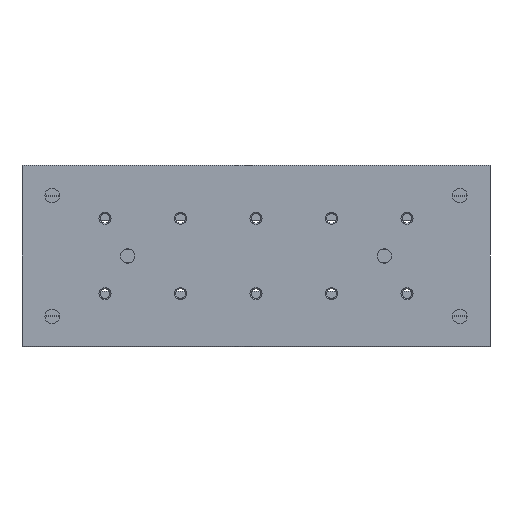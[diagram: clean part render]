
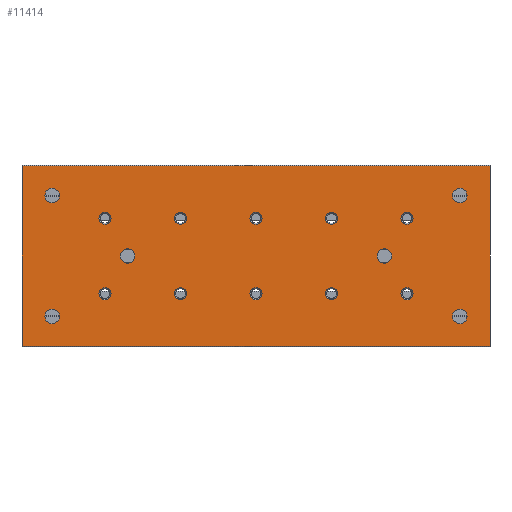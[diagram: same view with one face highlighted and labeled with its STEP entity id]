
A CAD part, front view. The second image highlights one B-rep face of the part: STEP entity #11414.
In plain terms, the highlighted planar face has unit normal (0, -1, 0).
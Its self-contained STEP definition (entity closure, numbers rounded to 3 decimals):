
#394=CIRCLE('',#12100,2.);
#395=CIRCLE('',#12101,2.);
#396=CIRCLE('',#12102,2.);
#397=CIRCLE('',#12103,2.);
#398=CIRCLE('',#12104,2.);
#399=CIRCLE('',#12105,2.);
#400=CIRCLE('',#12106,2.);
#401=CIRCLE('',#12107,2.);
#402=CIRCLE('',#12108,2.);
#403=CIRCLE('',#12109,2.);
#404=CIRCLE('',#12110,2.4);
#405=CIRCLE('',#12111,2.4);
#406=CIRCLE('',#12112,2.4);
#407=CIRCLE('',#12113,2.4);
#408=CIRCLE('',#12114,2.4);
#409=CIRCLE('',#12115,2.4);
#1176=ORIENTED_EDGE('',*,*,#4625,.F.);
#1177=ORIENTED_EDGE('',*,*,#4626,.F.);
#1178=ORIENTED_EDGE('',*,*,#4627,.F.);
#1179=ORIENTED_EDGE('',*,*,#4628,.F.);
#1180=ORIENTED_EDGE('',*,*,#4629,.F.);
#1181=ORIENTED_EDGE('',*,*,#4630,.F.);
#1182=ORIENTED_EDGE('',*,*,#4631,.F.);
#1183=ORIENTED_EDGE('',*,*,#4632,.F.);
#1184=ORIENTED_EDGE('',*,*,#4633,.F.);
#1185=ORIENTED_EDGE('',*,*,#4634,.F.);
#1186=ORIENTED_EDGE('',*,*,#4635,.F.);
#1187=ORIENTED_EDGE('',*,*,#4636,.F.);
#1188=ORIENTED_EDGE('',*,*,#4637,.T.);
#1189=ORIENTED_EDGE('',*,*,#4638,.F.);
#1190=ORIENTED_EDGE('',*,*,#4639,.F.);
#1191=ORIENTED_EDGE('',*,*,#4640,.F.);
#1192=ORIENTED_EDGE('',*,*,#4599,.T.);
#1193=ORIENTED_EDGE('',*,*,#4641,.F.);
#1194=ORIENTED_EDGE('',*,*,#4642,.F.);
#1195=ORIENTED_EDGE('',*,*,#4623,.T.);
#4599=EDGE_CURVE('',#6326,#6325,#7495,.T.);
#4623=EDGE_CURVE('',#6348,#6326,#7519,.T.);
#4625=EDGE_CURVE('',#6349,#6349,#394,.T.);
#4626=EDGE_CURVE('',#6350,#6350,#395,.T.);
#4627=EDGE_CURVE('',#6351,#6351,#396,.T.);
#4628=EDGE_CURVE('',#6352,#6352,#397,.T.);
#4629=EDGE_CURVE('',#6353,#6353,#398,.T.);
#4630=EDGE_CURVE('',#6354,#6354,#399,.T.);
#4631=EDGE_CURVE('',#6355,#6355,#400,.T.);
#4632=EDGE_CURVE('',#6356,#6356,#401,.T.);
#4633=EDGE_CURVE('',#6357,#6357,#402,.T.);
#4634=EDGE_CURVE('',#6358,#6358,#403,.T.);
#4635=EDGE_CURVE('',#6359,#6359,#404,.T.);
#4636=EDGE_CURVE('',#6360,#6360,#405,.T.);
#4637=EDGE_CURVE('',#6361,#6361,#406,.T.);
#4638=EDGE_CURVE('',#6362,#6362,#407,.T.);
#4639=EDGE_CURVE('',#6363,#6363,#408,.T.);
#4640=EDGE_CURVE('',#6364,#6364,#409,.T.);
#4641=EDGE_CURVE('',#6365,#6325,#7521,.T.);
#4642=EDGE_CURVE('',#6348,#6365,#7522,.T.);
#6325=VERTEX_POINT('',#17314);
#6326=VERTEX_POINT('',#17316);
#6348=VERTEX_POINT('',#17365);
#6349=VERTEX_POINT('',#17369);
#6350=VERTEX_POINT('',#17371);
#6351=VERTEX_POINT('',#17373);
#6352=VERTEX_POINT('',#17375);
#6353=VERTEX_POINT('',#17377);
#6354=VERTEX_POINT('',#17379);
#6355=VERTEX_POINT('',#17381);
#6356=VERTEX_POINT('',#17383);
#6357=VERTEX_POINT('',#17385);
#6358=VERTEX_POINT('',#17387);
#6359=VERTEX_POINT('',#17389);
#6360=VERTEX_POINT('',#17391);
#6361=VERTEX_POINT('',#17393);
#6362=VERTEX_POINT('',#17395);
#6363=VERTEX_POINT('',#17397);
#6364=VERTEX_POINT('',#17399);
#6365=VERTEX_POINT('',#17401);
#7495=LINE('',#17315,#8523);
#7519=LINE('',#17364,#8547);
#7521=LINE('',#17400,#8549);
#7522=LINE('',#17402,#8550);
#8523=VECTOR('',#13520,1000.);
#8547=VECTOR('',#13550,1000.);
#8549=VECTOR('',#13586,1000.);
#8550=VECTOR('',#13587,1000.);
#9507=EDGE_LOOP('',(#1176));
#9508=EDGE_LOOP('',(#1177));
#9509=EDGE_LOOP('',(#1178));
#9510=EDGE_LOOP('',(#1179));
#9511=EDGE_LOOP('',(#1180));
#9512=EDGE_LOOP('',(#1181));
#9513=EDGE_LOOP('',(#1182));
#9514=EDGE_LOOP('',(#1183));
#9515=EDGE_LOOP('',(#1184));
#9516=EDGE_LOOP('',(#1185));
#9517=EDGE_LOOP('',(#1186));
#9518=EDGE_LOOP('',(#1187));
#9519=EDGE_LOOP('',(#1188));
#9520=EDGE_LOOP('',(#1189));
#9521=EDGE_LOOP('',(#1190));
#9522=EDGE_LOOP('',(#1191));
#9523=EDGE_LOOP('',(#1192,#1193,#1194,#1195));
#10313=FACE_BOUND('',#9507,.T.);
#10314=FACE_BOUND('',#9508,.T.);
#10315=FACE_BOUND('',#9509,.T.);
#10316=FACE_BOUND('',#9510,.T.);
#10317=FACE_BOUND('',#9511,.T.);
#10318=FACE_BOUND('',#9512,.T.);
#10319=FACE_BOUND('',#9513,.T.);
#10320=FACE_BOUND('',#9514,.T.);
#10321=FACE_BOUND('',#9515,.T.);
#10322=FACE_BOUND('',#9516,.T.);
#10323=FACE_BOUND('',#9517,.T.);
#10324=FACE_BOUND('',#9518,.T.);
#10325=FACE_BOUND('',#9519,.T.);
#10326=FACE_BOUND('',#9520,.T.);
#10327=FACE_BOUND('',#9521,.T.);
#10328=FACE_BOUND('',#9522,.T.);
#10329=FACE_BOUND('',#9523,.T.);
#11119=PLANE('',#12099);
#11414=ADVANCED_FACE('',(#10313,#10314,#10315,#10316,#10317,#10318,#10319,
#10320,#10321,#10322,#10323,#10324,#10325,#10326,#10327,#10328,#10329),
#11119,.F.);
#12099=AXIS2_PLACEMENT_3D('',#17367,#13552,#13553);
#12100=AXIS2_PLACEMENT_3D('',#17368,#13554,#13555);
#12101=AXIS2_PLACEMENT_3D('',#17370,#13556,#13557);
#12102=AXIS2_PLACEMENT_3D('',#17372,#13558,#13559);
#12103=AXIS2_PLACEMENT_3D('',#17374,#13560,#13561);
#12104=AXIS2_PLACEMENT_3D('',#17376,#13562,#13563);
#12105=AXIS2_PLACEMENT_3D('',#17378,#13564,#13565);
#12106=AXIS2_PLACEMENT_3D('',#17380,#13566,#13567);
#12107=AXIS2_PLACEMENT_3D('',#17382,#13568,#13569);
#12108=AXIS2_PLACEMENT_3D('',#17384,#13570,#13571);
#12109=AXIS2_PLACEMENT_3D('',#17386,#13572,#13573);
#12110=AXIS2_PLACEMENT_3D('',#17388,#13574,#13575);
#12111=AXIS2_PLACEMENT_3D('',#17390,#13576,#13577);
#12112=AXIS2_PLACEMENT_3D('',#17392,#13578,#13579);
#12113=AXIS2_PLACEMENT_3D('',#17394,#13580,#13581);
#12114=AXIS2_PLACEMENT_3D('',#17396,#13582,#13583);
#12115=AXIS2_PLACEMENT_3D('',#17398,#13584,#13585);
#13520=DIRECTION('',(0.,0.,-1.));
#13550=DIRECTION('',(-1.,0.,0.));
#13552=DIRECTION('',(0.,1.,0.));
#13553=DIRECTION('',(0.,0.,1.));
#13554=DIRECTION('',(0.,-1.,0.));
#13555=DIRECTION('',(0.,0.,-1.));
#13556=DIRECTION('',(0.,-1.,0.));
#13557=DIRECTION('',(0.,0.,-1.));
#13558=DIRECTION('',(0.,-1.,0.));
#13559=DIRECTION('',(0.,0.,-1.));
#13560=DIRECTION('',(0.,-1.,0.));
#13561=DIRECTION('',(0.,0.,-1.));
#13562=DIRECTION('',(0.,-1.,0.));
#13563=DIRECTION('',(0.,0.,-1.));
#13564=DIRECTION('',(0.,-1.,0.));
#13565=DIRECTION('',(0.,0.,-1.));
#13566=DIRECTION('',(0.,-1.,0.));
#13567=DIRECTION('',(0.,0.,-1.));
#13568=DIRECTION('',(0.,-1.,0.));
#13569=DIRECTION('',(0.,0.,-1.));
#13570=DIRECTION('',(0.,-1.,0.));
#13571=DIRECTION('',(0.,0.,-1.));
#13572=DIRECTION('',(0.,-1.,0.));
#13573=DIRECTION('',(0.,0.,-1.));
#13574=DIRECTION('',(0.,-1.,0.));
#13575=DIRECTION('',(0.,0.,-1.));
#13576=DIRECTION('',(0.,-1.,0.));
#13577=DIRECTION('',(0.,0.,-1.));
#13578=DIRECTION('',(0.,1.,0.));
#13579=DIRECTION('',(0.,0.,1.));
#13580=DIRECTION('',(0.,-1.,0.));
#13581=DIRECTION('',(0.,0.,-1.));
#13582=DIRECTION('',(0.,-1.,0.));
#13583=DIRECTION('',(0.,0.,-1.));
#13584=DIRECTION('',(0.,-1.,0.));
#13585=DIRECTION('',(0.,0.,-1.));
#13586=DIRECTION('',(-1.,0.,0.));
#13587=DIRECTION('',(0.,0.,-1.));
#17314=CARTESIAN_POINT('',(0.,0.,-29.85));
#17315=CARTESIAN_POINT('',(0.,0.,29.85));
#17316=CARTESIAN_POINT('',(0.,0.,29.85));
#17364=CARTESIAN_POINT('',(155.,0.,29.85));
#17365=CARTESIAN_POINT('',(155.,0.,29.85));
#17367=CARTESIAN_POINT('',(155.,0.,29.85));
#17368=CARTESIAN_POINT('',(27.5,0.,-12.5));
#17369=CARTESIAN_POINT('',(27.5,0.,-14.5));
#17370=CARTESIAN_POINT('',(27.5,0.,12.5));
#17371=CARTESIAN_POINT('',(27.5,0.,10.5));
#17372=CARTESIAN_POINT('',(127.5,0.,-12.5));
#17373=CARTESIAN_POINT('',(127.5,0.,-14.5));
#17374=CARTESIAN_POINT('',(127.5,0.,12.5));
#17375=CARTESIAN_POINT('',(127.5,0.,10.5));
#17376=CARTESIAN_POINT('',(102.5,0.,-12.5));
#17377=CARTESIAN_POINT('',(102.5,0.,-14.5));
#17378=CARTESIAN_POINT('',(102.5,0.,12.5));
#17379=CARTESIAN_POINT('',(102.5,0.,10.5));
#17380=CARTESIAN_POINT('',(52.5,0.,-12.5));
#17381=CARTESIAN_POINT('',(52.5,0.,-14.5));
#17382=CARTESIAN_POINT('',(52.5,0.,12.5));
#17383=CARTESIAN_POINT('',(52.5,0.,10.5));
#17384=CARTESIAN_POINT('',(77.5,0.,-12.5));
#17385=CARTESIAN_POINT('',(77.5,0.,-14.5));
#17386=CARTESIAN_POINT('',(77.5,0.,12.5));
#17387=CARTESIAN_POINT('',(77.5,0.,10.5));
#17388=CARTESIAN_POINT('',(120.,0.,0.));
#17389=CARTESIAN_POINT('',(120.,0.,-2.4));
#17390=CARTESIAN_POINT('',(35.,0.,0.));
#17391=CARTESIAN_POINT('',(35.,0.,-2.4));
#17392=CARTESIAN_POINT('',(145.,0.,20.));
#17393=CARTESIAN_POINT('',(145.,0.,22.4));
#17394=CARTESIAN_POINT('',(145.,0.,-20.));
#17395=CARTESIAN_POINT('',(145.,0.,-22.4));
#17396=CARTESIAN_POINT('',(10.,0.,-20.));
#17397=CARTESIAN_POINT('',(10.,0.,-22.4));
#17398=CARTESIAN_POINT('',(10.,0.,20.));
#17399=CARTESIAN_POINT('',(10.,0.,17.6));
#17400=CARTESIAN_POINT('',(155.,0.,-29.85));
#17401=CARTESIAN_POINT('',(155.,0.,-29.85));
#17402=CARTESIAN_POINT('',(155.,0.,29.85));
